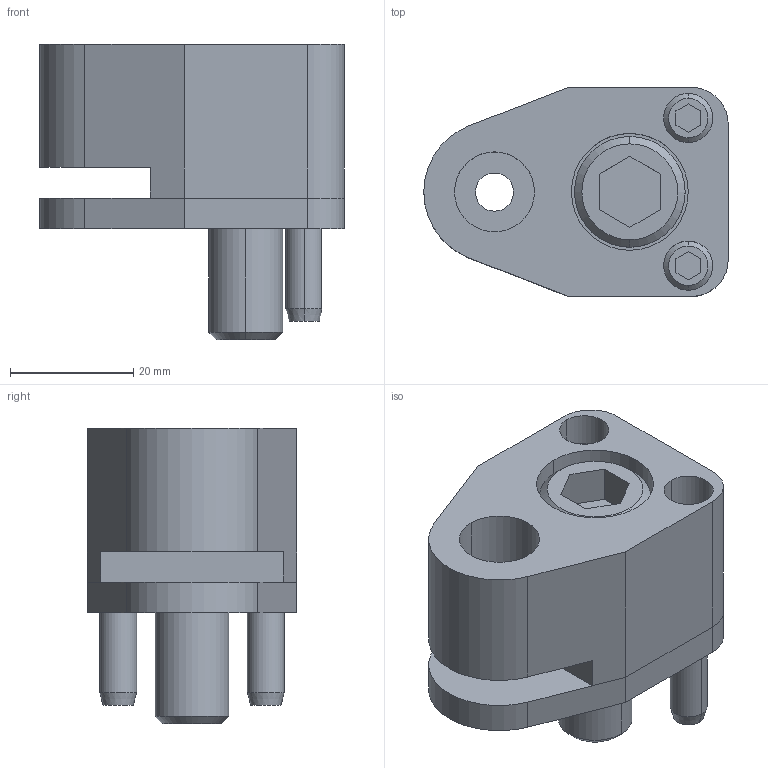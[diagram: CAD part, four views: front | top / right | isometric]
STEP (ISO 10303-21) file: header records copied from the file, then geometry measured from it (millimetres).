
FILE_DESCRIPTION(/* description */ (''),/* implementation_level */ '2;1');
FILE_NAME(/* name */ '3d_sp-fps13_02789_r00.stp',/* time_stamp */ '2011-01-10T14:10:16+09:00',/* author */ ('MISUMI'),/* organization */ (''),/* preprocessor_version */ 'ST-DEVELOPER v11',/* originating_system */ 'UGS - NX 5.0',/* authorisation */ '');
FILE_SCHEMA (('CONFIG_CONTROL_DESIGN'));
Length unit declared in the file: millimetre
Products named in the file (1): 3d_sp-fps13_02789_r00
Bounding box: 49.5 x 34 x 48 mm (x, y, z)
Volume: 38236.2 mm3; surface area: 17224.7 mm2
Topology: 7 solids, 7 shells, 129 faces, 294 edges, 189 vertices
Faces by surface type: plane 57, cylinder 50, cone 22
Entity records: 3792 total; most frequent: DIRECTION 672, CARTESIAN_POINT 666, ORIENTED_EDGE 588, EDGE_CURVE 294, AXIS2_PLACEMENT_3D 253, VERTEX_POINT 189, LINE 166, VECTOR 166
